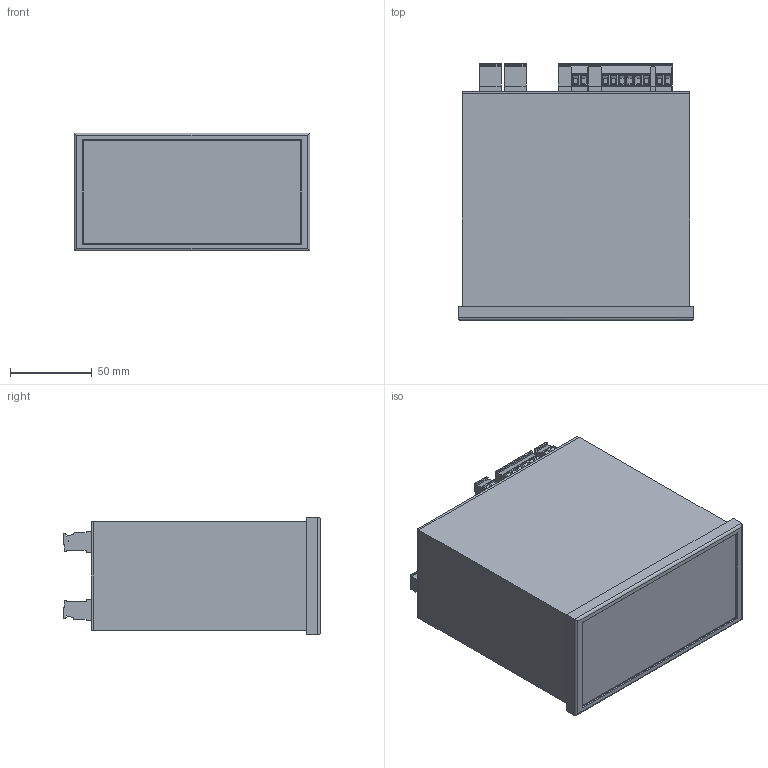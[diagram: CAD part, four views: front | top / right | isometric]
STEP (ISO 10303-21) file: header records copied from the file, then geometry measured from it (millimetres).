
FILE_DESCRIPTION(/* description */ (''),/* implementation_level */ '2;1');
FILE_NAME(/* name */ 'X:\Digidirect\CAD\Importierte Komponenten\IRDH375-4\IRDH375-4 Umgewandelt.stp',/* time_stamp */ '2013-10-11T06:38:01+02:00',/* author */ ('m.jost'),/* organization */ (''),/* preprocessor_version */ 'ST-DEVELOPER v15.2',/* originating_system */ 'Autodesk Inventor 2014',/* authorisation */ '');
FILE_SCHEMA (('CONFIG_CONTROL_DESIGN'));
Length unit declared in the file: millimetre
Products named in the file (2): IRDH375-4_Substitute_5; IRDH375-4
Bounding box: 144 x 156.83 x 72 mm (x, y, z)
Surface area: 87627.6 mm2 (no closed solid volume)
Topology: 0 solids, 74 shells, 362 faces, 1206 edges, 892 vertices
Faces by surface type: plane 308, cylinder 54
Full cylindrical faces by diameter (mm): 4 x21
Entity records: 13402 total; most frequent: CARTESIAN_POINT 2442, DIRECTION 2225, ORIENTED_EDGE 1845, EDGE_CURVE 1185, VERTEX_POINT 892, LINE 875, VECTOR 875, AXIS2_PLACEMENT_3D 675
